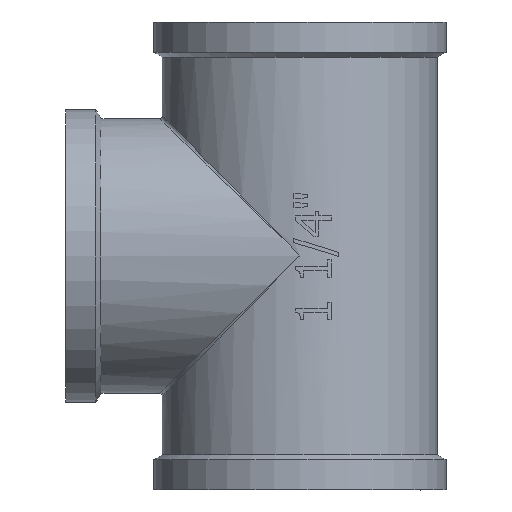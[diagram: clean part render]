
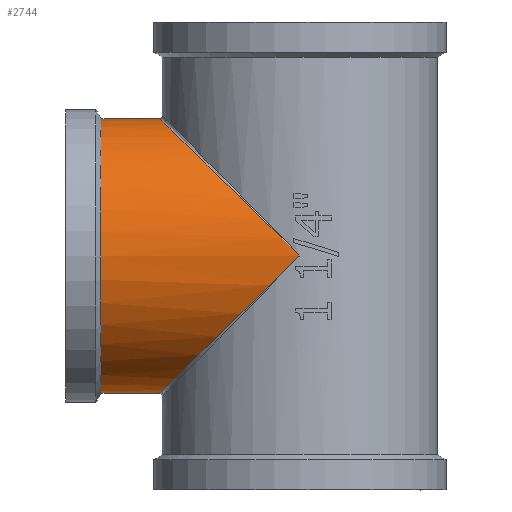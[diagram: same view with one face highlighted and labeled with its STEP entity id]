
A CAD part, left-side view. The second image highlights one B-rep face of the part: STEP entity #2744.
In plain terms, the highlighted cylindrical face has radius 23.5 mm (diameter 47 mm), a full revolution.
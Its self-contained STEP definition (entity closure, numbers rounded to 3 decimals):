
#224=CIRCLE('',#2976,23.5);
#225=CIRCLE('',#2977,23.5);
#226=CIRCLE('',#2979,23.5);
#431=FACE_OUTER_BOUND('',#590,.T.);
#590=EDGE_LOOP('',(#2196,#2197,#2198,#2199,#2200,#2201,#2202,#2203));
#693=ELLIPSE('',#2941,33.589,23.5);
#694=ELLIPSE('',#2942,33.589,23.5);
#695=ELLIPSE('',#2943,33.589,23.5);
#848=LINE('',#4497,#1034);
#1034=VECTOR('',#3512,23.5);
#1173=VERTEX_POINT('',#4214);
#1174=VERTEX_POINT('',#4216);
#1175=VERTEX_POINT('',#4218);
#1176=VERTEX_POINT('',#4274);
#1228=VERTEX_POINT('',#4490);
#1229=VERTEX_POINT('',#4491);
#1505=EDGE_CURVE('',#1173,#1174,#693,.T.);
#1506=EDGE_CURVE('',#1174,#1175,#694,.T.);
#1509=EDGE_CURVE('',#1176,#1173,#695,.T.);
#1584=EDGE_CURVE('',#1228,#1229,#224,.T.);
#1585=EDGE_CURVE('',#1229,#1228,#225,.T.);
#1587=EDGE_CURVE('',#1175,#1176,#226,.T.);
#1588=EDGE_CURVE('',#1174,#1229,#848,.T.);
#2196=ORIENTED_EDGE('',*,*,#1509,.F.);
#2197=ORIENTED_EDGE('',*,*,#1587,.F.);
#2198=ORIENTED_EDGE('',*,*,#1506,.F.);
#2199=ORIENTED_EDGE('',*,*,#1588,.T.);
#2200=ORIENTED_EDGE('',*,*,#1585,.T.);
#2201=ORIENTED_EDGE('',*,*,#1584,.T.);
#2202=ORIENTED_EDGE('',*,*,#1588,.F.);
#2203=ORIENTED_EDGE('',*,*,#1505,.F.);
#2618=CYLINDRICAL_SURFACE('',#2978,23.5);
#2744=ADVANCED_FACE('',(#431),#2618,.T.);
#2941=AXIS2_PLACEMENT_3D('',#4217,#3380,#3381);
#2942=AXIS2_PLACEMENT_3D('',#4219,#3382,#3383);
#2943=AXIS2_PLACEMENT_3D('',#4283,#3384,#3385);
#2976=AXIS2_PLACEMENT_3D('',#4492,#3503,#3504);
#2977=AXIS2_PLACEMENT_3D('',#4493,#3505,#3506);
#2978=AXIS2_PLACEMENT_3D('',#4495,#3508,#3509);
#2979=AXIS2_PLACEMENT_3D('',#4496,#3510,#3511);
#3380=DIRECTION('center_axis',(0.,-0.7,-0.715));
#3381=DIRECTION('ref_axis',(0.,0.715,-0.7));
#3382=DIRECTION('center_axis',(0.,-0.7,-0.715));
#3383=DIRECTION('ref_axis',(0.,0.715,-0.7));
#3384=DIRECTION('center_axis',(0.,-0.7,0.715));
#3385=DIRECTION('ref_axis',(0.,0.715,0.7));
#3503=DIRECTION('center_axis',(0.,-1.,0.));
#3504=DIRECTION('ref_axis',(1.,0.,0.));
#3505=DIRECTION('center_axis',(0.,-1.,0.));
#3506=DIRECTION('ref_axis',(1.,0.,0.));
#3508=DIRECTION('center_axis',(0.,-1.,0.));
#3509=DIRECTION('ref_axis',(0.,0.,1.));
#3510=DIRECTION('center_axis',(0.,-1.,0.));
#3511=DIRECTION('ref_axis',(0.,0.,1.));
#3512=DIRECTION('',(0.,1.,0.));
#4214=CARTESIAN_POINT('',(-23.5,0.,0.));
#4216=CARTESIAN_POINT('',(0.,24.,-23.5));
#4217=CARTESIAN_POINT('Origin',(0.,0.,0.));
#4218=CARTESIAN_POINT('',(22.478,7.,-6.854));
#4219=CARTESIAN_POINT('Origin',(0.,0.,0.));
#4274=CARTESIAN_POINT('',(22.478,7.,6.854));
#4283=CARTESIAN_POINT('Origin',(0.,0.,0.));
#4490=CARTESIAN_POINT('',(0.,34.,23.5));
#4491=CARTESIAN_POINT('',(0.,34.,-23.5));
#4492=CARTESIAN_POINT('Origin',(0.,34.,0.));
#4493=CARTESIAN_POINT('Origin',(0.,34.,0.));
#4495=CARTESIAN_POINT('Origin',(0.,17.,0.));
#4496=CARTESIAN_POINT('Origin',(0.,7.,0.));
#4497=CARTESIAN_POINT('',(0.,17.,-23.5));
